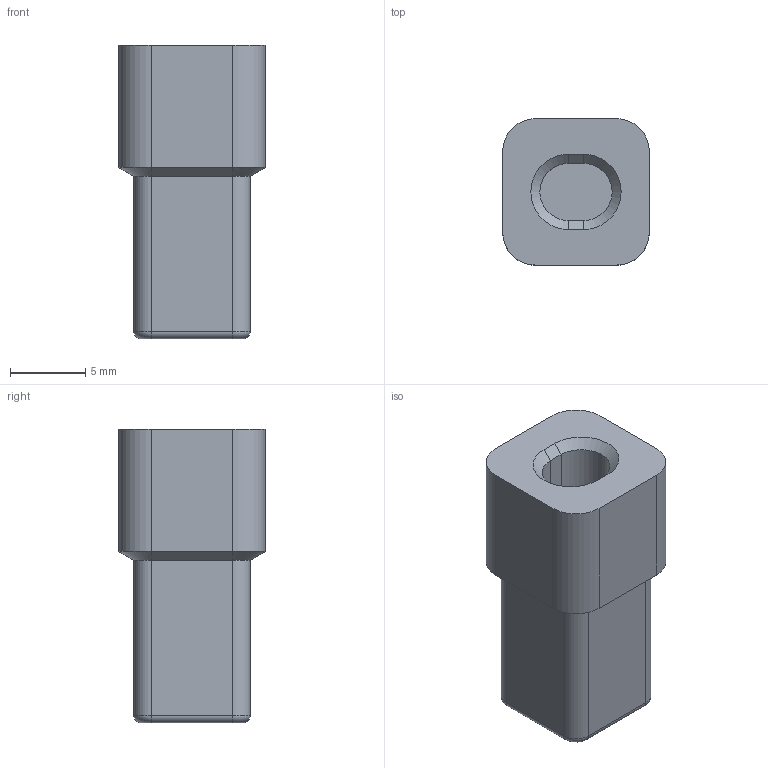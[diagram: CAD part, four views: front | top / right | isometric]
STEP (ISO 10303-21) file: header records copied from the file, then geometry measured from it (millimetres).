
FILE_DESCRIPTION(('Open CASCADE Model'),'2;1');
FILE_NAME('Open CASCADE Shape Model','2026-10-22T11:54:26',('Author'),( 'Open CASCADE'),'Open CASCADE STEP processor 7.8','Open CASCADE 7.8' ,'Unknown');
FILE_SCHEMA(('AUTOMOTIVE_DESIGN { 1 0 10303 214 1 1 1 1 }'));
Length unit declared in the file: millimetre
Products named in the file (3): back-button-4mm-longer-flush-icon-60deg-shoulder; Button_body; Flush_icon
Assembly tree (2 placements, depth 2):
  back-button-4mm-longer-flush-icon-60deg-shoulder
    Button_body
    Flush_icon
Bounding box: 9.72 x 9.72 x 19.5 mm (x, y, z)
Volume: 1325.8 mm3; surface area: 884 mm2
Topology: 2 solids, 2 shells, 85 faces, 212 edges, 132 vertices
Faces by surface type: plane 58, cylinder 15, bspline 5, torus 4, cone 3
Entity records: 5332 total; most frequent: CARTESIAN_POINT 1007, DIRECTION 792, LINE 532, VECTOR 532, ORIENTED_EDGE 424, PCURVE 424, DEFINITIONAL_REPRESENTATION 424, EDGE_CURVE 212
